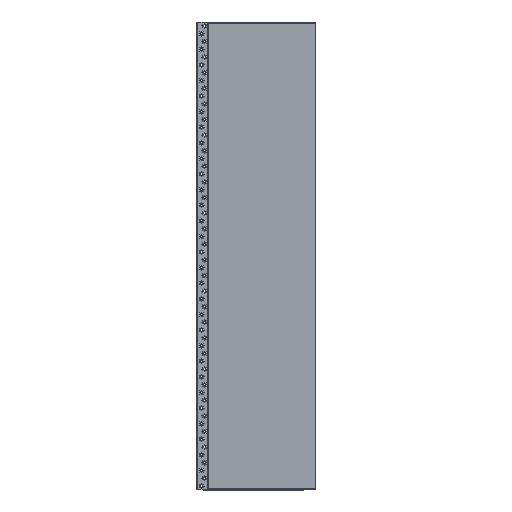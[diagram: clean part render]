
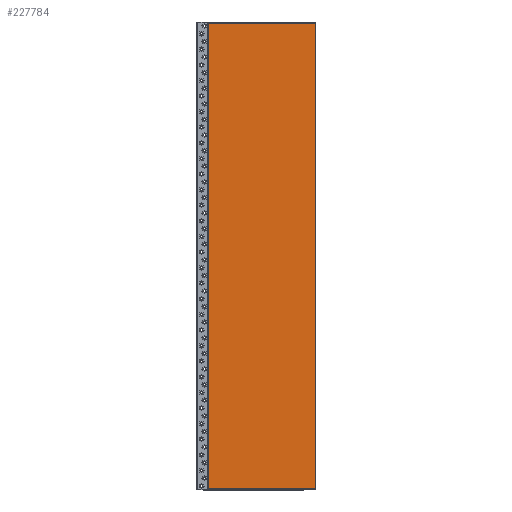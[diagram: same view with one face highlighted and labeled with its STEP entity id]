
A CAD part, top view. The second image highlights one B-rep face of the part: STEP entity #227784.
In plain terms, the highlighted planar face has unit normal (0, 0, 1).
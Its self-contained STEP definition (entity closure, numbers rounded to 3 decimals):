
#227470 = VERTEX_POINT('',#227471);
#227471 = CARTESIAN_POINT('',(17667.254,3003.,
    0.));
#227478 = PLANE('',#227479);
#227479 = AXIS2_PLACEMENT_3D('',#227480,#227481,#227482);
#227480 = CARTESIAN_POINT('',(17667.254,3003.,
    -25.));
#227481 = DIRECTION('',(0.,1.,0.));
#227482 = DIRECTION('',(1.,0.,0.));
#227490 = PLANE('',#227491);
#227491 = AXIS2_PLACEMENT_3D('',#227492,#227493,#227494);
#227492 = CARTESIAN_POINT('',(17667.254,4197.,
    -25.));
#227493 = DIRECTION('',(1.,0.,0.));
#227494 = DIRECTION('',(0.,-1.,0.));
#227502 = EDGE_CURVE('',#227470,#227503,#227505,.T.);
#227503 = VERTEX_POINT('',#227504);
#227504 = CARTESIAN_POINT('',(17942.754,3003.,
    0.));
#227505 = SURFACE_CURVE('',#227506,(#227510,#227517),.PCURVE_S1.);
#227506 = LINE('',#227507,#227508);
#227507 = CARTESIAN_POINT('',(17667.254,3003.,
    0.));
#227508 = VECTOR('',#227509,1.);
#227509 = DIRECTION('',(1.,0.,0.));
#227510 = PCURVE('',#227478,#227511);
#227511 = DEFINITIONAL_REPRESENTATION('',(#227512),#227516);
#227512 = LINE('',#227513,#227514);
#227513 = CARTESIAN_POINT('',(0.,-25.));
#227514 = VECTOR('',#227515,1.);
#227515 = DIRECTION('',(1.,0.));
#227516 = ( GEOMETRIC_REPRESENTATION_CONTEXT(2) 
PARAMETRIC_REPRESENTATION_CONTEXT() REPRESENTATION_CONTEXT('2D SPACE',''
  ) );
#227517 = PCURVE('',#227518,#227523);
#227518 = PLANE('',#227519);
#227519 = AXIS2_PLACEMENT_3D('',#227520,#227521,#227522);
#227520 = CARTESIAN_POINT('',(17805.004,3600.,
    0.));
#227521 = DIRECTION('',(0.,0.,1.));
#227522 = DIRECTION('',(1.,0.,0.));
#227523 = DEFINITIONAL_REPRESENTATION('',(#227524),#227528);
#227524 = LINE('',#227525,#227526);
#227525 = CARTESIAN_POINT('',(-137.75,-597.));
#227526 = VECTOR('',#227527,1.);
#227527 = DIRECTION('',(1.,0.));
#227528 = ( GEOMETRIC_REPRESENTATION_CONTEXT(2) 
PARAMETRIC_REPRESENTATION_CONTEXT() REPRESENTATION_CONTEXT('2D SPACE',''
  ) );
#227546 = PLANE('',#227547);
#227547 = AXIS2_PLACEMENT_3D('',#227548,#227549,#227550);
#227548 = CARTESIAN_POINT('',(17942.754,3003.,
    -25.));
#227549 = DIRECTION('',(-1.,0.,0.));
#227550 = DIRECTION('',(0.,1.,0.));
#227588 = EDGE_CURVE('',#227503,#227589,#227591,.T.);
#227589 = VERTEX_POINT('',#227590);
#227590 = CARTESIAN_POINT('',(17942.754,4197.,
    0.));
#227591 = SURFACE_CURVE('',#227592,(#227596,#227603),.PCURVE_S1.);
#227592 = LINE('',#227593,#227594);
#227593 = CARTESIAN_POINT('',(17942.754,3003.,
    0.));
#227594 = VECTOR('',#227595,1.);
#227595 = DIRECTION('',(0.,1.,0.));
#227596 = PCURVE('',#227546,#227597);
#227597 = DEFINITIONAL_REPRESENTATION('',(#227598),#227602);
#227598 = LINE('',#227599,#227600);
#227599 = CARTESIAN_POINT('',(0.,-25.));
#227600 = VECTOR('',#227601,1.);
#227601 = DIRECTION('',(1.,0.));
#227602 = ( GEOMETRIC_REPRESENTATION_CONTEXT(2) 
PARAMETRIC_REPRESENTATION_CONTEXT() REPRESENTATION_CONTEXT('2D SPACE',''
  ) );
#227603 = PCURVE('',#227518,#227604);
#227604 = DEFINITIONAL_REPRESENTATION('',(#227605),#227609);
#227605 = LINE('',#227606,#227607);
#227606 = CARTESIAN_POINT('',(137.75,-597.));
#227607 = VECTOR('',#227608,1.);
#227608 = DIRECTION('',(0.,1.));
#227609 = ( GEOMETRIC_REPRESENTATION_CONTEXT(2) 
PARAMETRIC_REPRESENTATION_CONTEXT() REPRESENTATION_CONTEXT('2D SPACE',''
  ) );
#227627 = PLANE('',#227628);
#227628 = AXIS2_PLACEMENT_3D('',#227629,#227630,#227631);
#227629 = CARTESIAN_POINT('',(17942.754,4197.,
    -25.));
#227630 = DIRECTION('',(0.,-1.,0.));
#227631 = DIRECTION('',(-1.,0.,0.));
#227664 = EDGE_CURVE('',#227589,#227665,#227667,.T.);
#227665 = VERTEX_POINT('',#227666);
#227666 = CARTESIAN_POINT('',(17667.254,4197.,
    0.));
#227667 = SURFACE_CURVE('',#227668,(#227672,#227679),.PCURVE_S1.);
#227668 = LINE('',#227669,#227670);
#227669 = CARTESIAN_POINT('',(17942.754,4197.,
    0.));
#227670 = VECTOR('',#227671,1.);
#227671 = DIRECTION('',(-1.,0.,0.));
#227672 = PCURVE('',#227627,#227673);
#227673 = DEFINITIONAL_REPRESENTATION('',(#227674),#227678);
#227674 = LINE('',#227675,#227676);
#227675 = CARTESIAN_POINT('',(0.,-25.));
#227676 = VECTOR('',#227677,1.);
#227677 = DIRECTION('',(1.,0.));
#227678 = ( GEOMETRIC_REPRESENTATION_CONTEXT(2) 
PARAMETRIC_REPRESENTATION_CONTEXT() REPRESENTATION_CONTEXT('2D SPACE',''
  ) );
#227679 = PCURVE('',#227518,#227680);
#227680 = DEFINITIONAL_REPRESENTATION('',(#227681),#227685);
#227681 = LINE('',#227682,#227683);
#227682 = CARTESIAN_POINT('',(137.75,597.));
#227683 = VECTOR('',#227684,1.);
#227684 = DIRECTION('',(-1.,0.));
#227685 = ( GEOMETRIC_REPRESENTATION_CONTEXT(2) 
PARAMETRIC_REPRESENTATION_CONTEXT() REPRESENTATION_CONTEXT('2D SPACE',''
  ) );
#227735 = EDGE_CURVE('',#227665,#227470,#227736,.T.);
#227736 = SURFACE_CURVE('',#227737,(#227741,#227748),.PCURVE_S1.);
#227737 = LINE('',#227738,#227739);
#227738 = CARTESIAN_POINT('',(17667.254,4197.,
    0.));
#227739 = VECTOR('',#227740,1.);
#227740 = DIRECTION('',(0.,-1.,0.));
#227741 = PCURVE('',#227490,#227742);
#227742 = DEFINITIONAL_REPRESENTATION('',(#227743),#227747);
#227743 = LINE('',#227744,#227745);
#227744 = CARTESIAN_POINT('',(0.,-25.));
#227745 = VECTOR('',#227746,1.);
#227746 = DIRECTION('',(1.,0.));
#227747 = ( GEOMETRIC_REPRESENTATION_CONTEXT(2) 
PARAMETRIC_REPRESENTATION_CONTEXT() REPRESENTATION_CONTEXT('2D SPACE',''
  ) );
#227748 = PCURVE('',#227518,#227749);
#227749 = DEFINITIONAL_REPRESENTATION('',(#227750),#227754);
#227750 = LINE('',#227751,#227752);
#227751 = CARTESIAN_POINT('',(-137.75,597.));
#227752 = VECTOR('',#227753,1.);
#227753 = DIRECTION('',(0.,-1.));
#227754 = ( GEOMETRIC_REPRESENTATION_CONTEXT(2) 
PARAMETRIC_REPRESENTATION_CONTEXT() REPRESENTATION_CONTEXT('2D SPACE',''
  ) );
#227784 = ADVANCED_FACE('',(#227785),#227518,.T.);
#227785 = FACE_BOUND('',#227786,.T.);
#227786 = EDGE_LOOP('',(#227787,#227788,#227789,#227790));
#227787 = ORIENTED_EDGE('',*,*,#227502,.T.);
#227788 = ORIENTED_EDGE('',*,*,#227588,.T.);
#227789 = ORIENTED_EDGE('',*,*,#227664,.T.);
#227790 = ORIENTED_EDGE('',*,*,#227735,.T.);
